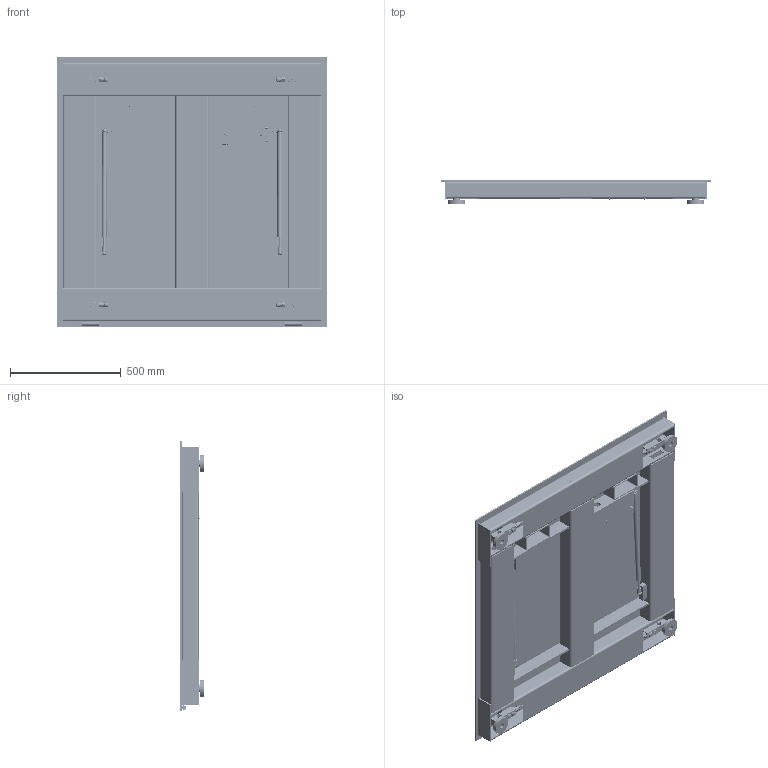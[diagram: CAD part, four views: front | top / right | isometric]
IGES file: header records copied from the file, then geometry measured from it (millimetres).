
Start section: SolidWorks IGES file using analytic representation for surfaces
Global section: file name: C:\0_Work\SolidWorks\~0_B-TEK Floor Scale\FSLD Series Lift Deck Floor Scales\36 x 36\HIFSLD-4848 Series.IGS; native system: SolidWorks 2017; preprocessor: SolidWorks 2017; author: vach01; date: 191011.080510; units: inch
Bounding box: 1219.2 x 106.08 x 1219.2 mm (x, y, z)
Surface area: 8465688.1 mm2 (no closed solid volume)
Topology: 0 solids, 0 shells, 19521 faces, 175871 edges, 175819 vertices
Faces by surface type: bspline 15024, revolution 4497
